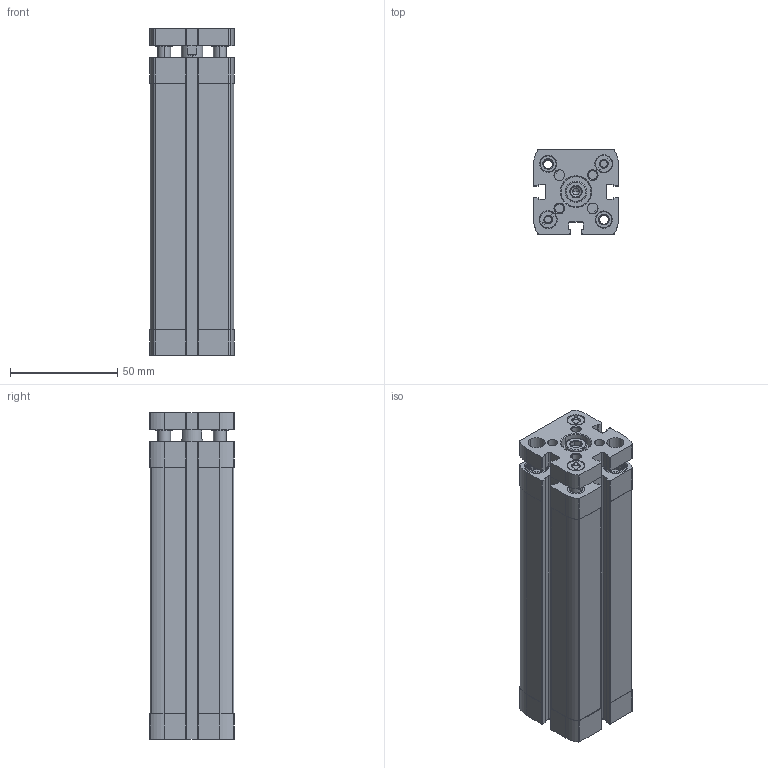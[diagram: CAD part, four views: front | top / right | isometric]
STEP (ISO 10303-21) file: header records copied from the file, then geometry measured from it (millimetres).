
FILE_DESCRIPTION (( 'STEP AP203' ), '1' );
FILE_NAME ('CCNG25-100.STEP', '2017-04-13T18:36:05', ( '' ), ( '' ), 'SwSTEP 2.0', 'SolidWorks 2016', '' );
FILE_SCHEMA (( 'CONFIG_CONTROL_DESIGN' ));
Length unit declared in the file: millimetre
Products named in the file (3): CCNG-25-100---(Z); CCNG-25-100---(KS); CCNG25-100
Assembly tree (2 placements, depth 2):
  CCNG25-100
    CCNG-25-100---(Z)
    CCNG-25-100---(KS)
Bounding box: 39.5 x 39.5 x 152.5 mm (x, y, z)
Volume: 155184.8 mm3; surface area: 66997.9 mm2
Topology: 2 solids, 6 shells, 598 faces, 1577 edges, 1027 vertices
Faces by surface type: plane 301, cylinder 214, cone 77, bspline 6
Entity records: 19190 total; most frequent: CARTESIAN_POINT 3740, DIRECTION 3267, ORIENTED_EDGE 3150, EDGE_CURVE 1575, AXIS2_PLACEMENT_3D 1228, VERTEX_POINT 1027, LINE 811, VECTOR 811
